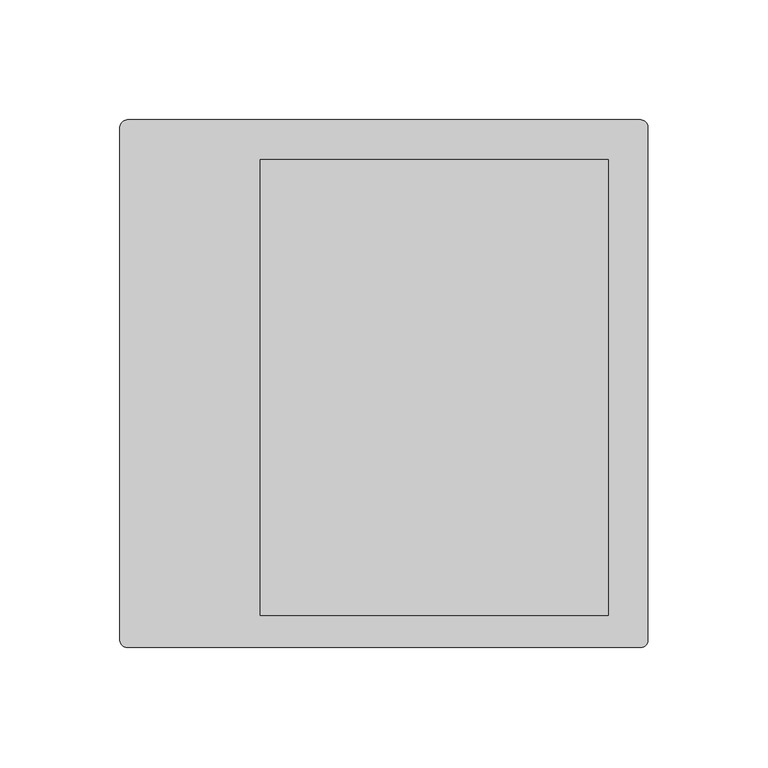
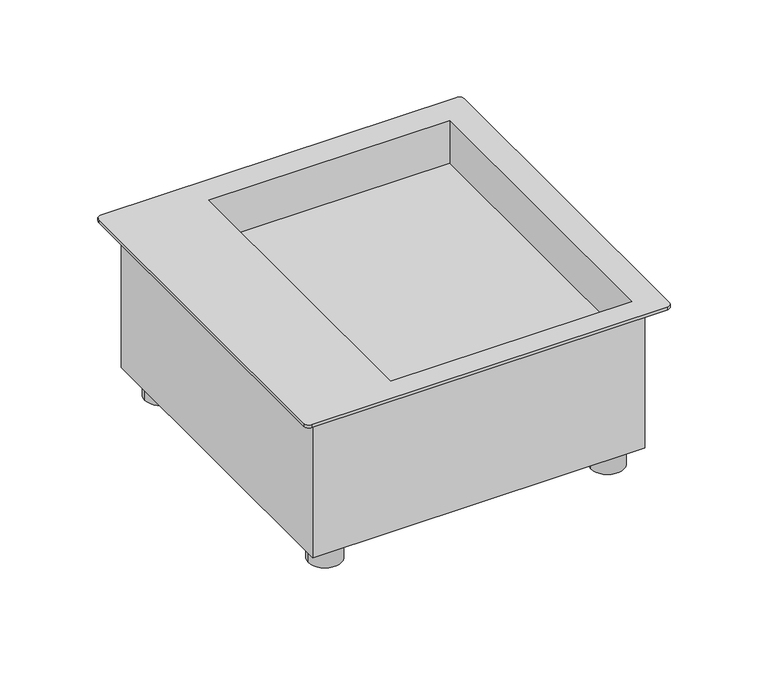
"""IFC4 building model written with IfcOpenShell, lengths in millimetres: proxy geometry, Electrical_Installation_Hager_VE-EE_Complete_underfloor_junction_box_package : Compl pack junct. box incl VQ06 iron grey."""

from ifc_helpers import new_model, si_unit, frame, origin, place, context, project, spatial, circle_curve, source, transform, mapped, element, save
from ifc_brep_helpers import plane_surface, cylinder_surface, advanced_brep


def electrical_fixtures_5eeed26f(model_context):
    return source(origin(), model_context, "Body", "AdvancedBrep", [
        advanced_brep(
        [(108.5, 111.5, 2.0), (-105.5, 111.5, 2.0), (-108.5, 108.5, 2.0), (-108.5, -105.5, 2.0), (-105.5, -108.5, 2.0), (108.5, -108.5, 2.0), (111.5, -105.5, 2.0), (111.5, 108.5, 2.0), (-50.1502423, -95.0, 2.0), (-50.1502423, 95.0, 2.0), (95.0, 95.0, 2.0), (95.0, -95.0, 2.0), (108.5, 111.5, 0.0), (111.5, 108.5, 0.0), (111.5, -105.5, 0.0), (108.5, -108.5, 0.0), (-105.5, -108.5, 0.0), (-108.5, -105.5, 0.0), (-108.5, 108.5, 0.0), (-105.5, 111.5, 0.0), (-100.0, -100.0, 0.0), (100.0, -100.0, 0.0), (100.0, 100.0, 0.0), (-100.0, 100.0, 0.0), (-50.1502423, -95.0, -25.0), (-50.1502423, 95.0, -25.0), (95.0, 95.0, -25.0), (95.0, -95.0, -25.0), (100.0, 100.0, -90.0), (100.0, -100.0, -90.0), (-100.0, -100.0, -90.0), (-100.0, 100.0, -90.0), (-93.5051574, 86.4657286, -90.0), (-73.5051574, 86.4657286, -90.0), (76.6301574, 86.4657286, -90.0), (96.6301574, 86.4657286, -90.0), (-93.5051574, -83.9657286, -90.0), (-73.5051574, -83.9657286, -90.0), (76.6301574, -83.9657286, -90.0), (96.6301574, -83.9657286, -90.0), (-93.5051574, 86.4657286, -105.0), (-73.5051574, 86.4657286, -105.0), (76.6301574, 86.4657286, -105.0), (96.6301574, 86.4657286, -105.0), (-93.5051574, -83.9657286, -105.0), (-73.5051574, -83.9657286, -105.0), (76.6301574, -83.9657286, -105.0), (96.6301574, -83.9657286, -105.0)],
        [
            (0, 1),
            (1, 2, circle_curve(frame((-105.5, 108.5, 2.0), z_axis=(0.0, 0.0, 1.0), x_axis=(1.0, 0.0, 0.0)), 3.0)),
            (2, 3),
            (3, 4, circle_curve(frame((-105.5, -105.5, 2.0), z_axis=(0.0, 0.0, 1.0), x_axis=(1.0, 0.0, 0.0)), 3.0)),
            (4, 5),
            (5, 6, circle_curve(frame((108.5, -105.5, 2.0), z_axis=(0.0, 0.0, 1.0), x_axis=(1.0, 0.0, 0.0)), 3.0)),
            (6, 7),
            (7, 0, circle_curve(frame((108.5, 108.5, 2.0), z_axis=(0.0, 0.0, 1.0), x_axis=(1.0, 0.0, 0.0)), 3.0)),
            (8, 9),
            (9, 10),
            (10, 11),
            (11, 8),
            (12, 13, circle_curve(frame((108.5, 108.5, 0.0), z_axis=(0.0, 0.0, -1.0), x_axis=(1.0, 0.0, 0.0)), 3.0)),
            (13, 14),
            (14, 15, circle_curve(frame((108.5, -105.5, 0.0), z_axis=(0.0, 0.0, -1.0), x_axis=(1.0, 0.0, 0.0)), 3.0)),
            (15, 16),
            (16, 17, circle_curve(frame((-105.5, -105.5, 0.0), z_axis=(0.0, 0.0, -1.0), x_axis=(1.0, 0.0, 0.0)), 3.0)),
            (17, 18),
            (18, 19, circle_curve(frame((-105.5, 108.5, 0.0), z_axis=(0.0, 0.0, -1.0), x_axis=(1.0, 0.0, 0.0)), 3.0)),
            (19, 12),
            (20, 21),
            (21, 22),
            (22, 23),
            (23, 20),
            (0, 12),
            (19, 1),
            (18, 2),
            (17, 3),
            (16, 4),
            (15, 5),
            (14, 6),
            (13, 7),
            (8, 24),
            (24, 25),
            (25, 9),
            (25, 26),
            (26, 10),
            (26, 27),
            (27, 11),
            (27, 24),
            (28, 29),
            (29, 30),
            (30, 31),
            (31, 28),
            (32, 33, circle_curve(frame((-83.5051574, 86.4657286, -90.0), z_axis=(0.0, 0.0, 1.0), x_axis=(1.0, 0.0, 0.0)), 10.0)),
            (33, 32, circle_curve(frame((-83.5051574, 86.4657286, -90.0), z_axis=(0.0, 0.0, 1.0), x_axis=(1.0, 0.0, 0.0)), 10.0)),
            (34, 35, circle_curve(frame((86.6301574, 86.4657286, -90.0), z_axis=(0.0, 0.0, 1.0), x_axis=(1.0, 0.0, 0.0)), 10.0)),
            (35, 34, circle_curve(frame((86.6301574, 86.4657286, -90.0), z_axis=(0.0, 0.0, 1.0), x_axis=(1.0, 0.0, 0.0)), 10.0)),
            (36, 37, circle_curve(frame((-83.5051574, -83.9657286, -90.0), z_axis=(0.0, 0.0, 1.0), x_axis=(1.0, 0.0, 0.0)), 10.0)),
            (37, 36, circle_curve(frame((-83.5051574, -83.9657286, -90.0), z_axis=(0.0, 0.0, 1.0), x_axis=(1.0, 0.0, 0.0)), 10.0)),
            (38, 39, circle_curve(frame((86.6301574, -83.9657286, -90.0), z_axis=(0.0, 0.0, 1.0), x_axis=(1.0, 0.0, 0.0)), 10.0)),
            (39, 38, circle_curve(frame((86.6301574, -83.9657286, -90.0), z_axis=(0.0, 0.0, 1.0), x_axis=(1.0, 0.0, 0.0)), 10.0)),
            (31, 23),
            (22, 28),
            (30, 20),
            (29, 21),
            (40, 41, circle_curve(frame((-83.5051574, 86.4657286, -105.0), z_axis=(0.0, 0.0, -1.0), x_axis=(1.0, 0.0, 0.0)), 10.0)),
            (41, 40, circle_curve(frame((-83.5051574, 86.4657286, -105.0), z_axis=(0.0, 0.0, -1.0), x_axis=(1.0, 0.0, 0.0)), 10.0)),
            (42, 43, circle_curve(frame((86.6301574, 86.4657286, -105.0), z_axis=(0.0, 0.0, -1.0), x_axis=(1.0, 0.0, 0.0)), 10.0)),
            (43, 42, circle_curve(frame((86.6301574, 86.4657286, -105.0), z_axis=(0.0, 0.0, -1.0), x_axis=(1.0, 0.0, 0.0)), 10.0)),
            (44, 45, circle_curve(frame((-83.5051574, -83.9657286, -105.0), z_axis=(0.0, 0.0, -1.0), x_axis=(1.0, 0.0, 0.0)), 10.0)),
            (45, 44, circle_curve(frame((-83.5051574, -83.9657286, -105.0), z_axis=(0.0, 0.0, -1.0), x_axis=(1.0, 0.0, 0.0)), 10.0)),
            (46, 47, circle_curve(frame((86.6301574, -83.9657286, -105.0), z_axis=(0.0, 0.0, -1.0), x_axis=(1.0, 0.0, 0.0)), 10.0)),
            (47, 46, circle_curve(frame((86.6301574, -83.9657286, -105.0), z_axis=(0.0, 0.0, -1.0), x_axis=(1.0, 0.0, 0.0)), 10.0)),
            (41, 33),
            (32, 40),
            (43, 35),
            (34, 42),
            (45, 37),
            (36, 44),
            (47, 39),
            (38, 46),
        ],
        [
            plane_surface(frame((-105.5, 111.5, 2.0), z_axis=(0.0, 0.0, 1.0), x_axis=(-1.0, 0.0, 0.0))),
            plane_surface(frame((-105.5, 111.5, 0.0), z_axis=(0.0, 0.0, -1.0), x_axis=(1.0, 0.0, 0.0))),
            plane_surface(frame((108.5, 111.5, 2.0), z_axis=(0.0, 1.0, 0.0), x_axis=(0.0, 0.0, -1.0))),
            cylinder_surface(frame((-105.5, 108.5, 0.0), z_axis=(0.0, 0.0, 1.0), x_axis=(1.0, 0.0, 0.0)), 3.0),
            plane_surface(frame((-108.5, 108.5, 2.0), z_axis=(-1.0, 0.0, 0.0), x_axis=(0.0, 0.0, -1.0))),
            cylinder_surface(frame((-105.5, -105.5, 0.0), z_axis=(0.0, 0.0, 1.0), x_axis=(1.0, 0.0, 0.0)), 3.0),
            plane_surface(frame((-105.5, -108.5, 2.0), z_axis=(0.0, -1.0, 0.0), x_axis=(0.0, 0.0, -1.0))),
            cylinder_surface(frame((108.5, -105.5, 0.0), z_axis=(0.0, 0.0, 1.0), x_axis=(1.0, 0.0, 0.0)), 3.0),
            plane_surface(frame((111.5, -105.5, 2.0), z_axis=(1.0, 0.0, 0.0), x_axis=(0.0, 0.0, -1.0))),
            cylinder_surface(frame((108.5, 108.5, 0.0), z_axis=(0.0, 0.0, 1.0), x_axis=(1.0, 0.0, 0.0)), 3.0),
            plane_surface(frame((-50.1502423, -95.0, 2.0), z_axis=(1.0, 0.0, 0.0), x_axis=(0.0, 0.0, -1.0))),
            plane_surface(frame((-50.1502423, 95.0, 2.0), z_axis=(0.0, -1.0, 0.0), x_axis=(0.0, 0.0, -1.0))),
            plane_surface(frame((95.0, 95.0, 2.0), z_axis=(-1.0, 0.0, 0.0), x_axis=(0.0, 0.0, -1.0))),
            plane_surface(frame((95.0, -95.0, 2.0), z_axis=(0.0, 1.0, 0.0), x_axis=(0.0, 0.0, -1.0))),
            plane_surface(frame((-545.5769887, 100.0, -25.0), z_axis=(0.0, 0.0, 1.0), x_axis=(-1.0, 0.0, 0.0))),
            plane_surface(frame((-545.5769887, 100.0, -90.0), z_axis=(0.0, 0.0, -1.0), x_axis=(1.0, 0.0, 0.0))),
            plane_surface(frame((100.0, 100.0, -25.0), z_axis=(0.0, 1.0, 0.0), x_axis=(0.0, 0.0, -1.0))),
            plane_surface(frame((-100.0, 100.0, -25.0), z_axis=(-1.0, 0.0, 0.0), x_axis=(0.0, 0.0, -1.0))),
            plane_surface(frame((-100.0, -100.0, -25.0), z_axis=(0.0, -1.0, 0.0), x_axis=(0.0, 0.0, -1.0))),
            plane_surface(frame((100.0, -100.0, -25.0), z_axis=(1.0, 0.0, 0.0), x_axis=(0.0, 0.0, -1.0))),
            plane_surface(frame((-73.5051574, 86.4657286, -105.0), z_axis=(0.0, 0.0, -1.0), x_axis=(0.0, -1.0, 0.0))),
            cylinder_surface(frame((-83.5051574, 86.4657286, -105.0), z_axis=(0.0, 0.0, 1.0), x_axis=(1.0, 0.0, 0.0)), 10.0),
            cylinder_surface(frame((86.6301574, 86.4657286, 0.0), z_axis=(0.0, 0.0, 1.0), x_axis=(1.0, 0.0, 0.0)), 10.0),
            cylinder_surface(frame((-83.5051574, -83.9657286, 0.0), z_axis=(0.0, 0.0, 1.0), x_axis=(1.0, 0.0, 0.0)), 10.0),
            cylinder_surface(frame((86.6301574, -83.9657286, 0.0), z_axis=(0.0, 0.0, 1.0), x_axis=(1.0, 0.0, 0.0)), 10.0),
        ],
        [
            (0, [[1, 2, 3, 4, 5, 6, 7, 8], [9, 10, 11, 12]]),
            (1, [[13, 14, 15, 16, 17, 18, 19, 20], [21, 22, 23, 24]]),
            (2, [[-1, 25, -20, 26]]),
            (3, [[-2, -26, -19, 27]]),
            (4, [[-3, -27, -18, 28]]),
            (5, [[-4, -28, -17, 29]]),
            (6, [[-5, -29, -16, 30]]),
            (7, [[-6, -30, -15, 31]]),
            (8, [[-7, -31, -14, 32]]),
            (9, [[-8, -32, -13, -25]]),
            (10, [[-9, 33, 34, 35]]),
            (11, [[-10, -35, 36, 37]]),
            (12, [[-11, -37, 38, 39]]),
            (13, [[-12, -39, 40, -33]]),
            (14, [[-34, -40, -38, -36]]),
            (15, [[41, 42, 43, 44], [45, 46], [47, 48], [49, 50], [51, 52]]),
            (16, [[-44, 53, -23, 54]]),
            (17, [[-53, -43, 55, -24]]),
            (18, [[-55, -42, 56, -21]]),
            (19, [[-56, -41, -54, -22]]),
            (20, [[57, 58]]),
            (20, [[59, 60]]),
            (20, [[61, 62]]),
            (20, [[63, 64]]),
            (21, [[-58, 65, -45, 66]]),
            (21, [[-57, -66, -46, -65]]),
            (22, [[-60, 67, -47, 68]]),
            (22, [[-59, -68, -48, -67]]),
            (23, [[-62, 69, -49, 70]]),
            (23, [[-61, -70, -50, -69]]),
            (24, [[-64, 71, -51, 72]]),
            (24, [[-63, -72, -52, -71]]),
        ],
    ),
    ])


if __name__ == "__main__":
    model = new_model("IFC4")
    model_context = context("Model", 3, world=origin())
    ifc_project = project(units=[si_unit("LENGTHUNIT", "METRE", prefix="MILLI")], contexts=[model_context])
    site = spatial("IfcSite", under=ifc_project)
    building = spatial("IfcBuilding", under=site)
    placement = place(None, origin())
    electrical_fixtures_shape = electrical_fixtures_5eeed26f(model_context)
    element("IfcBuildingElementProxy", 1, Name="Electrical_Installation_Hager_VE-EE_Complete_underfloor_junction_box_package : Compl pack junct. box incl VQ06 iron grey", ObjectType="Electrical_Installation_Hager_VE-EE_Complete_underfloor_junction_box_package : Compl pack junct. box incl VQ06 iron grey", at=placement, inside=building, context=model_context, shape_type="MappedRepresentation", body=[
        mapped(electrical_fixtures_shape, transform((0.0, 0.0, 0.0), x_axis=(1.0, 0.0, 0.0), y_axis=(0.0, 1.0, 0.0), z_axis=(0.0, 0.0, 1.0))),
    ])
    save(model, "model.ifc")
